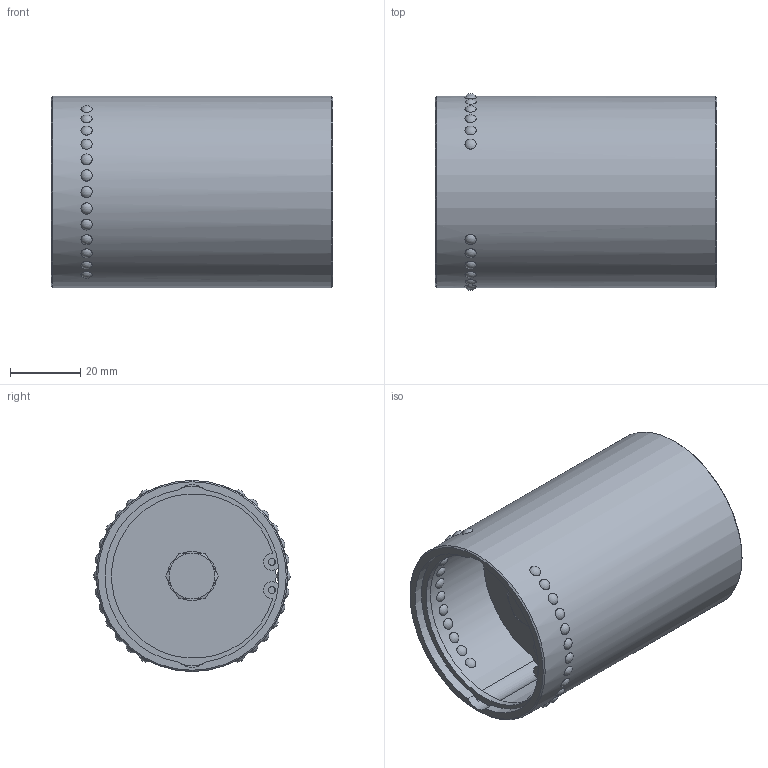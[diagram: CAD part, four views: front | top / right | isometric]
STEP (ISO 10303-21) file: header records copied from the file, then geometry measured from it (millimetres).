
FILE_DESCRIPTION(/* description */ ('Impex Ready, www.impex-ready.pl'),/* implementation_level */ '2;1');
FILE_NAME(/* name */ 'C:\Users\VIKKY\Nextcloud\SM\projekt 10 - części na stronę internetową\Pliki_3D_new\279 Koszyki GSAB\279 GSAB_STEP\GSAB4880.ipt.step',/* time_stamp */ '2022-01-19T06:34:19+01:00',/* author */ ('SM'),/* organization */ (''),/* preprocessor_version */ 'ST-DEVELOPER v18.1',/* originating_system */ 'Autodesk Inventor 2021',/* authorisation */ '');
FILE_SCHEMA (('AUTOMOTIVE_DESIGN { 1 0 10303 214 3 1 1 }'));
Length unit declared in the file: millimetre
Products named in the file (1): GSAB4880
Bounding box: 80 x 56 x 54.4 mm (x, y, z)
Volume: 36045.7 mm3; surface area: 33749 mm2
Topology: 5 solids, 5 shells, 108 faces, 189 edges, 143 vertices
Faces by surface type: sphere 52, plane 24, cylinder 23, cone 9
Full cylindrical faces by diameter (mm): 2 x2, 8 x1, 8.2 x1, 12 x2, 14 x1, 49.6 x1, 54.4 x1
Entity records: 4765 total; most frequent: CARTESIAN_POINT 2393, DIRECTION 408, ORIENTED_EDGE 378, EDGE_CURVE 189, AXIS2_PLACEMENT_3D 178, EDGE_LOOP 170, VERTEX_POINT 143, STYLED_ITEM 113
